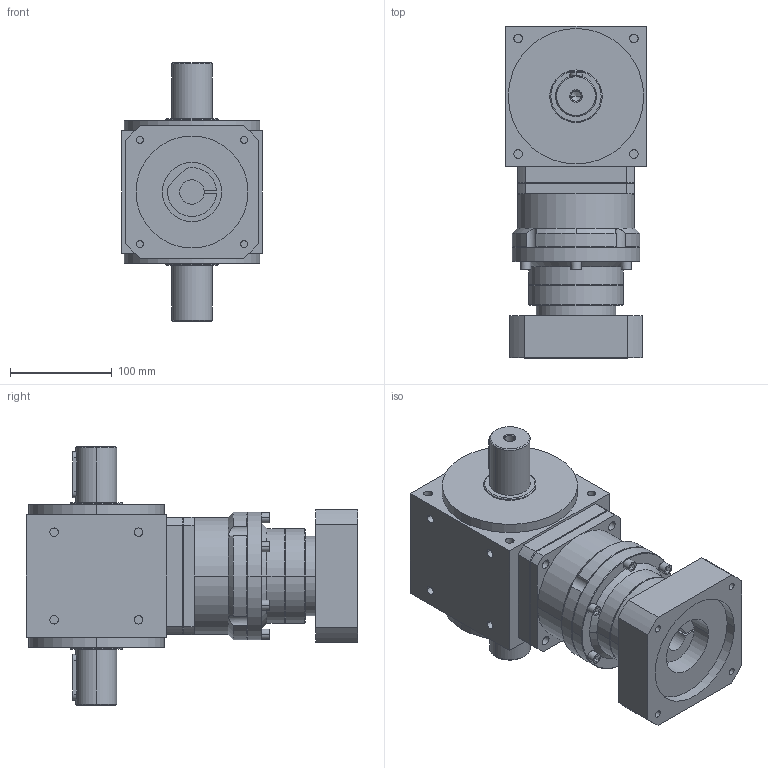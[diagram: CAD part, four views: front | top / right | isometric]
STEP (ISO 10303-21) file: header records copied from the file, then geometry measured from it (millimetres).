
FILE_DESCRIPTION (( 'STEP AP214' ), '1' );
FILE_NAME ('AAW135AS-L2-2P 24-110-145-M8.STEP', '2025-04-08T09:09:43', ( '微软用户' ), ( '微软中国' ), 'SwSTEP 2.0', 'SolidWorks 2024', '' );
FILE_SCHEMA (( 'AUTOMOTIVE_DESIGN' ));
Length unit declared in the file: millimetre
Products named in the file (3): AAW135AS-2P; VRB-115-L2-S2-P1 24-110-145-M8; AAW135AS-L2-2P 24-110-145-M8
Assembly tree (2 placements, depth 2):
  AAW135AS-L2-2P 24-110-145-M8
    AAW135AS-2P
    VRB-115-L2-S2-P1 24-110-145-M8
Bounding box: 138 x 326 x 254 mm (x, y, z)
Volume: 4811583.4 mm3; surface area: 292883 mm2
Topology: 2 solids, 2 shells, 334 faces, 772 edges, 489 vertices
Faces by surface type: cylinder 140, plane 140, cone 42, torus 12
Entity records: 10173 total; most frequent: CARTESIAN_POINT 2232, DIRECTION 1778, ORIENTED_EDGE 1532, EDGE_CURVE 766, AXIS2_PLACEMENT_3D 706, VERTEX_POINT 489, EDGE_LOOP 395, CIRCLE 367
